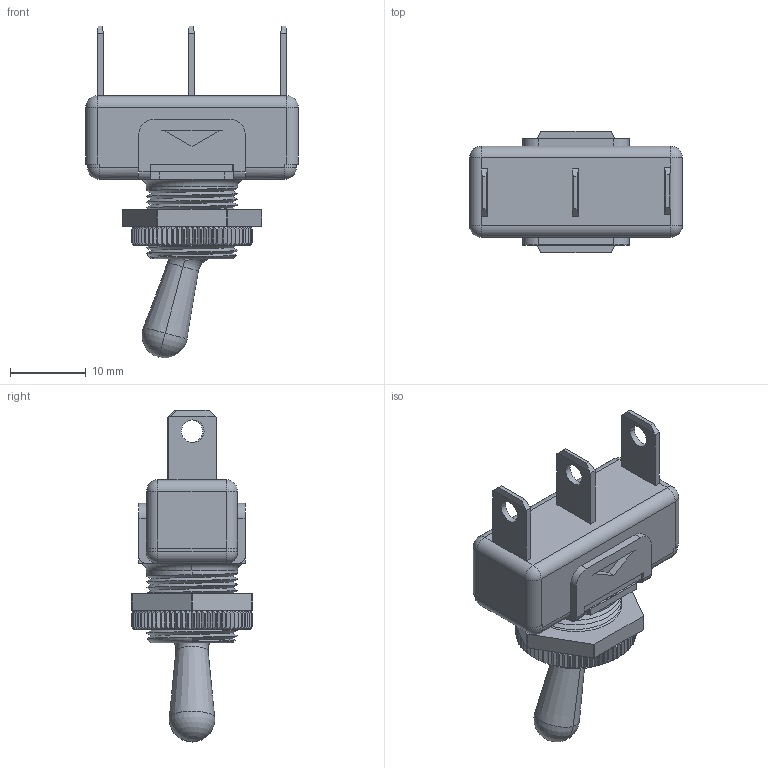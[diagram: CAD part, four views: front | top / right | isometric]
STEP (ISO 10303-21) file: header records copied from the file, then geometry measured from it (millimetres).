
FILE_DESCRIPTION((''),'2;1');
FILE_NAME('1016C_SW0001','2009-10-06T',('jlgachon'),(''),'PRO/ENGINEER BY PARAMETRIC TECHNOLOGY CORPORATION, 2008400','PRO/ENGINEER BY PARAMETRIC TECHNOLOGY CORPORATION, 2008400','');
FILE_SCHEMA(('CONFIG_CONTROL_DESIGN'));
Length unit declared in the file: millimetre
Products named in the file (1): 1016C_SW0001
Bounding box: 28 x 16 x 43.74 mm (x, y, z)
Volume: 3721.5 mm3; surface area: 6175.2 mm2
Topology: 3 solids, 3 shells, 696 faces, 1705 edges, 1019 vertices
Faces by surface type: plane 341, cylinder 153, cone 144, bspline 32, sphere 14, torus 12
Entity records: 26269 total; most frequent: CARTESIAN_POINT 10504, ORIENTED_EDGE 3402, DIRECTION 3122, EDGE_CURVE 1701, AXIS2_PLACEMENT_3D 1154, VERTEX_POINT 1019, VECTOR 814, LINE 814
